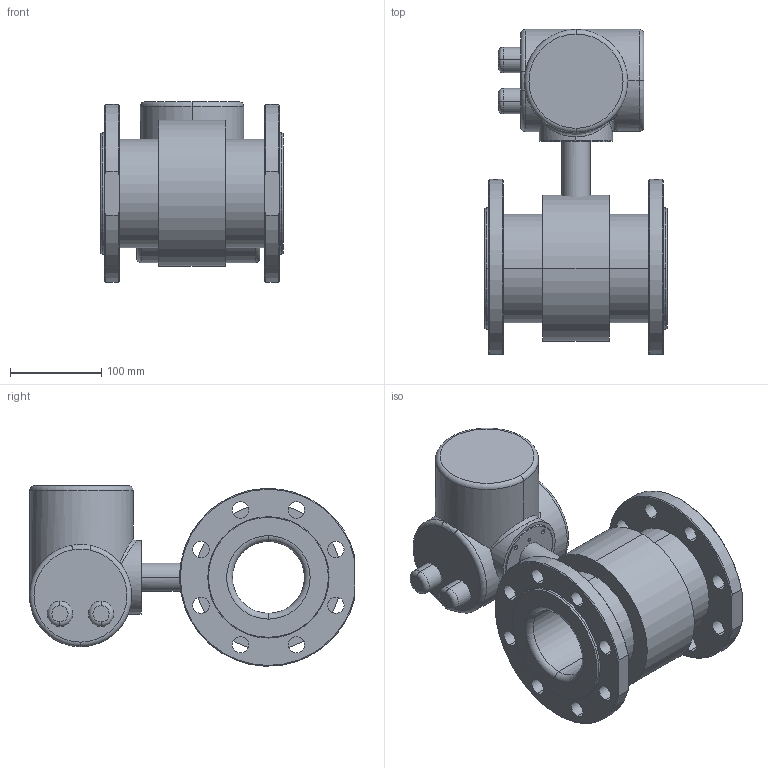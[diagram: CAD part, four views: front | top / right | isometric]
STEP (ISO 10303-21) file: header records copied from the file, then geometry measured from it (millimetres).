
FILE_DESCRIPTION (( 'STEP AP203' ), '1' );
FILE_NAME ('Ðàñõîäîìåð-ñ÷åò÷èê ýëåêòðîìàãíèòíûé ÏÈÒÅÐÔËÎÓ Ò3 - 80 Ex .STEP', '2022-06-24T07:51:36', ( '' ), ( '' ), 'SwSTEP 2.0', 'SolidWorks 2016', '' );
FILE_SCHEMA (( 'CONFIG_CONTROL_DESIGN' ));
Length unit declared in the file: millimetre
Products named in the file (1): Ðàñõîäîìåð-ñ÷åò÷èê ýëåêòðîìàãíèòíûé ÏÈÒÅÐÔËÎÓ Ò3 - 80 Ex 
Bounding box: 200.6 x 356.5 x 197.82 mm (x, y, z)
Volume: 4607786.2 mm3; surface area: 379984.6 mm2
Topology: 5 solids, 5 shells, 248 faces, 609 edges, 382 vertices
Faces by surface type: cylinder 121, cone 64, plane 44, torus 14, bspline 4, sphere 1
Entity records: 10343 total; most frequent: CARTESIAN_POINT 4274, DIRECTION 1310, ORIENTED_EDGE 1210, EDGE_CURVE 605, AXIS2_PLACEMENT_3D 558, VERTEX_POINT 382, CIRCLE 313, EDGE_LOOP 311
